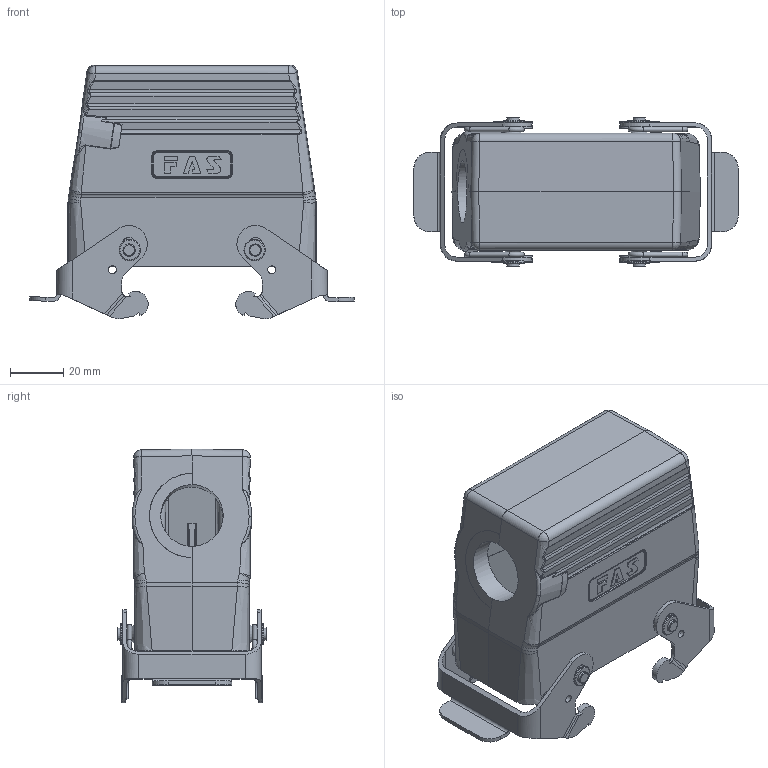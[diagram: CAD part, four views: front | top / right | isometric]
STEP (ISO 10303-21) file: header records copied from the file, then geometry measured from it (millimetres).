
FILE_DESCRIPTION (( 'STEP AP203' ), '1' );
FILE_NAME ('H16B-TSBH-M25.STEP', '2023-06-07T08:55:01', ( '' ), ( '' ), 'SwSTEP 2.0', 'SolidWorks 2016', '' );
FILE_SCHEMA (( 'CONFIG_CONTROL_DESIGN' ));
Products named in the file (1): H16B-TSBH-M25
Bounding box: 122.16 x 56.4 x 95.65 mm (x, y, z)
Volume: 99594.7 mm3; surface area: 55332.6 mm2
Topology: 1 solids, 1 shells, 762 faces, 2036 edges, 1295 vertices
Faces by surface type: cylinder 254, plane 252, bspline 151, torus 46, cone 42, sphere 17
Full cylindrical faces by diameter (mm): 1.8 x10, 2.95 x4, 3 x4, 4 x4, 8 x4, 23.5 x1
Entity records: 36219 total; most frequent: CARTESIAN_POINT 20226, ORIENTED_EDGE 3784, DIRECTION 2524, EDGE_CURVE 1892, VERTEX_POINT 1235, AXIS2_PLACEMENT_3D 917, EDGE_LOOP 879, FACE_OUTER_BOUND 794
